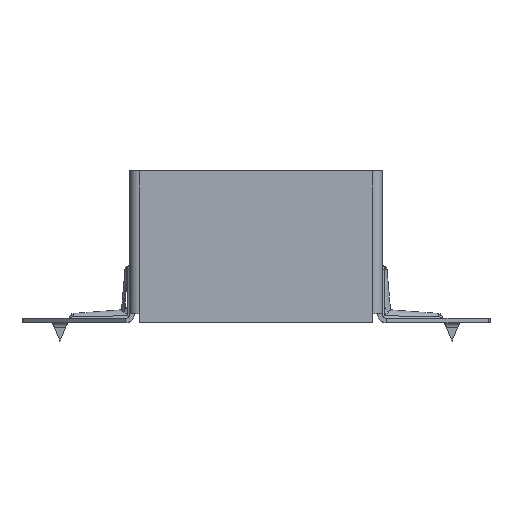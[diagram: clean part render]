
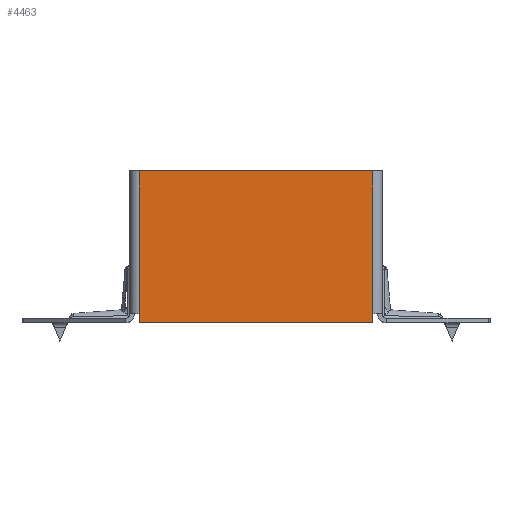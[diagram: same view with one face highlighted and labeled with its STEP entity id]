
A CAD part, front view. The second image highlights one B-rep face of the part: STEP entity #4463.
In plain terms, the highlighted planar face has unit normal (0, -1, 0).
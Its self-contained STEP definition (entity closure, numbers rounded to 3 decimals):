
#449 = VECTOR ( 'NONE', #20844, 1000. ) ;
#1503 = FACE_OUTER_BOUND ( 'NONE', #7390, .T. ) ;
#1872 = DIRECTION ( 'NONE',  ( 0., 0., 1. ) ) ;
#2134 = EDGE_CURVE ( 'NONE', #22143, #18373, #13357, .T. ) ;
#4463 = ADVANCED_FACE ( 'NONE', ( #1503 ), #6017, .F. ) ;
#4681 = LINE ( 'NONE', #5318, #27044 ) ;
#5318 = CARTESIAN_POINT ( 'NONE',  ( -77., -60.75, 18. ) ) ;
#5730 = ORIENTED_EDGE ( 'NONE', *, *, #25893, .T. ) ;
#6017 = PLANE ( 'NONE',  #18017 ) ;
#6380 = EDGE_CURVE ( 'NONE', #18859, #22143, #4681, .T. ) ;
#7371 = DIRECTION ( 'NONE',  ( -1., 0., 0. ) ) ;
#7390 = EDGE_LOOP ( 'NONE', ( #18688, #27452, #11521, #25863, #31765, #5730 ) ) ;
#10766 = VECTOR ( 'NONE', #1872, 1000. ) ;
#11176 = DIRECTION ( 'NONE',  ( 0., 0., -1. ) ) ;
#11521 = ORIENTED_EDGE ( 'NONE', *, *, #21249, .F. ) ;
#12067 = CARTESIAN_POINT ( 'NONE',  ( 38.5, -60.75, -29. ) ) ;
#13357 = LINE ( 'NONE', #14378, #29382 ) ;
#14378 = CARTESIAN_POINT ( 'NONE',  ( 38.5, -60.75, 3. ) ) ;
#14947 = DIRECTION ( 'NONE',  ( 1., 0., 0. ) ) ;
#16027 = CARTESIAN_POINT ( 'NONE',  ( 38.5, -60.75, 18. ) ) ;
#17068 = VECTOR ( 'NONE', #26058, 1000. ) ;
#17202 = VERTEX_POINT ( 'NONE', #24997 ) ;
#17498 = EDGE_CURVE ( 'NONE', #26437, #19728, #20598, .T. ) ;
#18017 = AXIS2_PLACEMENT_3D ( 'NONE', #32695, #23752, #14947 ) ;
#18373 = VERTEX_POINT ( 'NONE', #35194 ) ;
#18688 = ORIENTED_EDGE ( 'NONE', *, *, #2134, .F. ) ;
#18859 = VERTEX_POINT ( 'NONE', #36140 ) ;
#19728 = VERTEX_POINT ( 'NONE', #33534 ) ;
#20197 = CARTESIAN_POINT ( 'NONE',  ( -38.5, -60.75, -29. ) ) ;
#20489 = LINE ( 'NONE', #26838, #449 ) ;
#20598 = LINE ( 'NONE', #22170, #27877 ) ;
#20844 = DIRECTION ( 'NONE',  ( 0., 0., 1. ) ) ;
#21249 = EDGE_CURVE ( 'NONE', #17202, #18859, #20489, .T. ) ;
#22143 = VERTEX_POINT ( 'NONE', #16027 ) ;
#22170 = CARTESIAN_POINT ( 'NONE',  ( -40.75, -60.75, -32. ) ) ;
#23752 = DIRECTION ( 'NONE',  ( 0., 1., 0. ) ) ;
#24997 = CARTESIAN_POINT ( 'NONE',  ( -38.5, -60.75, -29. ) ) ;
#25863 = ORIENTED_EDGE ( 'NONE', *, *, #33611, .T. ) ;
#25893 = EDGE_CURVE ( 'NONE', #26437, #18373, #30446, .T. ) ;
#26058 = DIRECTION ( 'NONE',  ( 0., 0., -1. ) ) ;
#26437 = VERTEX_POINT ( 'NONE', #26940 ) ;
#26838 = CARTESIAN_POINT ( 'NONE',  ( -38.5, -60.75, 3. ) ) ;
#26940 = CARTESIAN_POINT ( 'NONE',  ( 38.5, -60.75, -32. ) ) ;
#27044 = VECTOR ( 'NONE', #34414, 1000. ) ;
#27452 = ORIENTED_EDGE ( 'NONE', *, *, #6380, .F. ) ;
#27877 = VECTOR ( 'NONE', #7371, 1000. ) ;
#29382 = VECTOR ( 'NONE', #11176, 1000. ) ;
#30446 = LINE ( 'NONE', #12067, #10766 ) ;
#30835 = LINE ( 'NONE', #20197, #17068 ) ;
#31765 = ORIENTED_EDGE ( 'NONE', *, *, #17498, .F. ) ;
#32695 = CARTESIAN_POINT ( 'NONE',  ( -20., -60.75, 3. ) ) ;
#33534 = CARTESIAN_POINT ( 'NONE',  ( -38.5, -60.75, -32. ) ) ;
#33611 = EDGE_CURVE ( 'NONE', #17202, #19728, #30835, .T. ) ;
#34414 = DIRECTION ( 'NONE',  ( 1., 0., 0. ) ) ;
#35194 = CARTESIAN_POINT ( 'NONE',  ( 38.5, -60.75, -29. ) ) ;
#36140 = CARTESIAN_POINT ( 'NONE',  ( -38.5, -60.75, 18. ) ) ;
